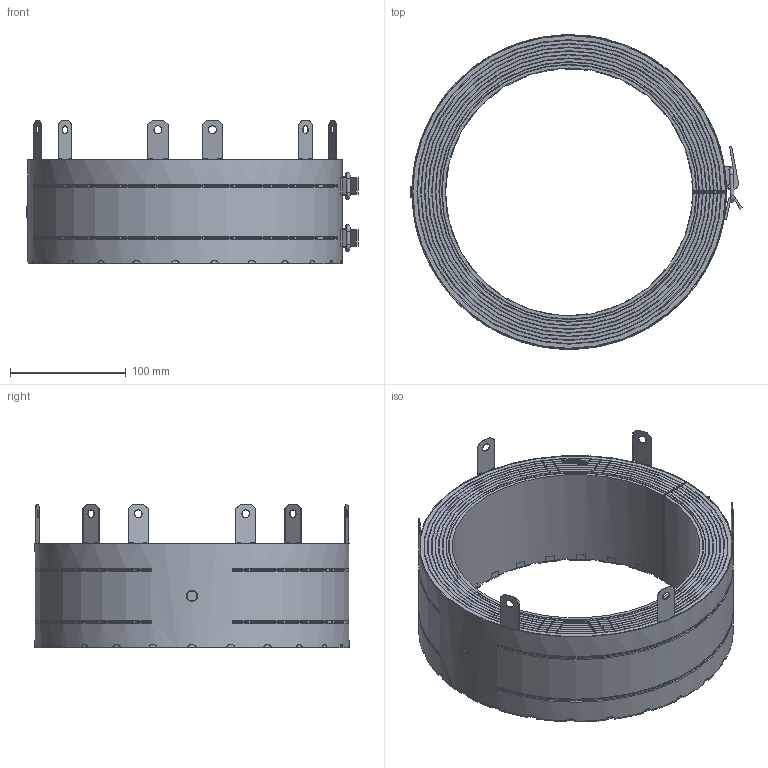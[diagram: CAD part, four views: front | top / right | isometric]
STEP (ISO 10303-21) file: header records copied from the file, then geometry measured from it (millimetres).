
FILE_DESCRIPTION(/* description */ (''),/* implementation_level */ '2;1');
FILE_NAME(/* name */ 'H:\Geberit-Teile\Export\RS90 plus\stp\348336.stp',/* time_stamp */ '2017-03-24T12:30:38+01:00',/* author */ ('seihe2'),/* organization */ (''),/* preprocessor_version */ 'ST-DEVELOPER v15.2',/* originating_system */ 'Autodesk Inventor 2014',/* authorisation */ '');
FILE_SCHEMA (('AUTOMOTIVE_DESIGN { 1 0 10303 214 3 1 1 }'));
Length unit declared in the file: millimetre
Products named in the file (1): 348336
Bounding box: 287.16 x 271.93 x 124.5 mm (x, y, z)
Volume: 1694125.7 mm3; surface area: 1428471.8 mm2
Topology: 4 solids, 4 shells, 501 faces, 1476 edges, 937 vertices
Faces by surface type: plane 346, cylinder 138, torus 17
Full cylindrical faces by diameter (mm): 3 x6, 3.5 x4, 4 x6, 7 x6, 10 x1
Entity records: 18105 total; most frequent: CARTESIAN_POINT 4117, ORIENTED_EDGE 2880, DIRECTION 2793, EDGE_CURVE 1435, AXIS2_PLACEMENT_3D 976, VERTEX_POINT 928, LINE 841, VECTOR 841
